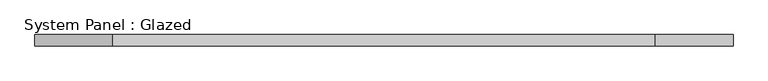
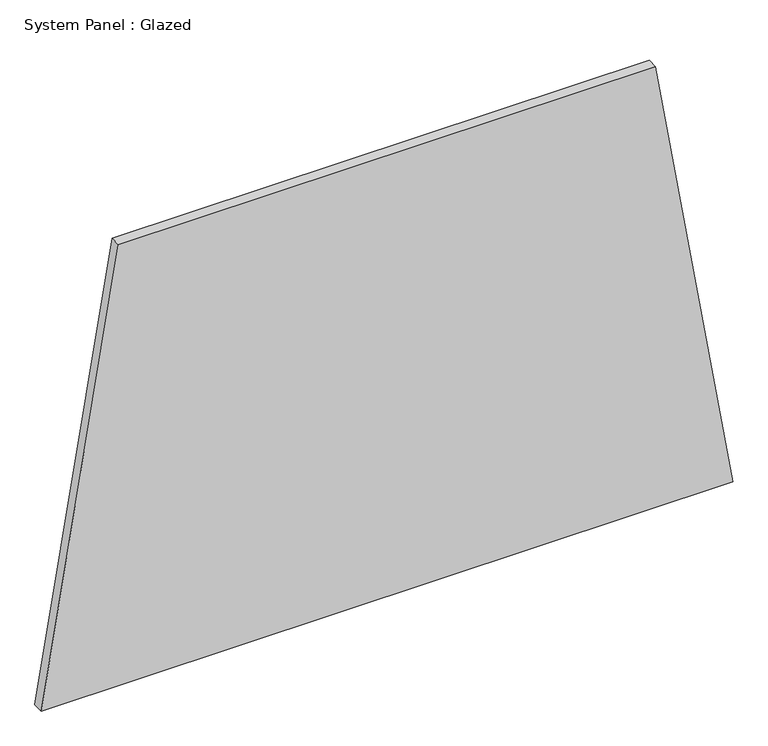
"""IFC4 building model written with IfcOpenShell, lengths in millimetres: plate geometry, System Panel : Glazed."""

from ifc_helpers import new_model, si_unit, frame, origin, place, context, project, spatial, polyline, outline, extrude, source, transform, mapped, element, save


def system_panel_glazed_ad0206cb(model_context):
    return source(origin(), model_context, "Body", "SweptSolid", [
        extrude(outline(polyline([(0.0, -781.344405), (0.0, 781.344405), (1052.4683812, 607.0671931), (1052.4683812, -607.0671931), (0.0, -781.344405)])), frame((0.0, -49.5, 0.0), z_axis=(0.0, 1.0, 0.0), x_axis=(0.0, 0.0, 1.0)), (0.0, 0.0, 1.0), 25.0),
    ])


if __name__ == "__main__":
    model = new_model("IFC4")
    model_context = context("Model", 3, world=origin())
    ifc_project = project(units=[si_unit("LENGTHUNIT", "METRE", prefix="MILLI")], contexts=[model_context])
    site = spatial("IfcSite", under=ifc_project)
    building = spatial("IfcBuilding", under=site)
    placement = place(None, origin())
    system_panel_glazed_shape = system_panel_glazed_ad0206cb(model_context)
    element("IfcPlate", 1, ObjectType="System Panel : Glazed", at=placement, inside=building, context=model_context, shape_type="MappedRepresentation", body=[
        mapped(system_panel_glazed_shape, transform((0.0, 0.0, 0.0), x_axis=(1.0, 0.0, 0.0), y_axis=(0.0, 1.0, 0.0), z_axis=(0.0, 0.0, 1.0))),
    ])
    save(model, "model.ifc")
